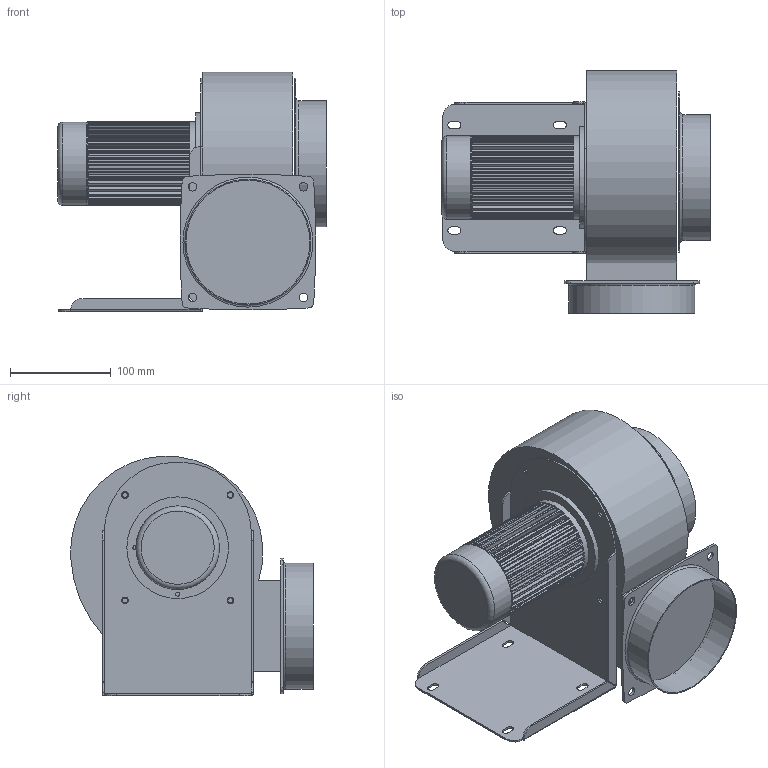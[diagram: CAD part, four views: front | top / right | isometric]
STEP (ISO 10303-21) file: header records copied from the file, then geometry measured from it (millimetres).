
FILE_DESCRIPTION(/* description */ ('Unknown'),/* implementation_level */ '2;1');
FILE_NAME(/* name */ 'CY125ADC24V-NDX 型錄',/* time_stamp */ '2026-05-25T11:58:28+08:00',/* author */ ('Unknown'),/* organization */ ('Unknown'),/* preprocessor_version */ 'ST-DEVELOPER v20',/* originating_system */ 'Solid Edge',/* authorisation */ 'Unknown');
FILE_SCHEMA (('AUTOMOTIVE_DESIGN {1 0 10303 214 3 1 1}'));
Length unit declared in the file: millimetre
Products named in the file (5): CY125ADC24V-NDX 型; CY125-01 & 05; CY125-07-DC; CY127-04; JM125ADC24V-S-NDX
Assembly tree (4 placements, depth 2):
  CY125ADC24V-NDX 型
    CY125-01 & 05
    CY125-07-DC
    CY127-04
    JM125ADC24V-S-NDX
Bounding box: 266.4 x 241 x 237.85 mm (x, y, z)
Volume: 2815381.1 mm3; surface area: 435734.9 mm2
Topology: 4 solids, 4 shells, 482 faces, 1245 edges, 823 vertices
Faces by surface type: cylinder 259, plane 218, torus 5
Full cylindrical faces by diameter (mm): 4 x4, 4.5 x3, 5.1 x8, 6.5 x4, 7 x2, 8 x1, 8.5 x4, 20 x1, 82.6 x1, 82.89 x1, 101 x1, 123 x2, 125 x2, 135 x1
Entity records: 14899 total; most frequent: DIRECTION 2770, CARTESIAN_POINT 2501, ORIENTED_EDGE 2396, EDGE_CURVE 1198, AXIS2_PLACEMENT_3D 1085, VERTEX_POINT 816, EDGE_LOOP 622, FACE_BOUND 622
